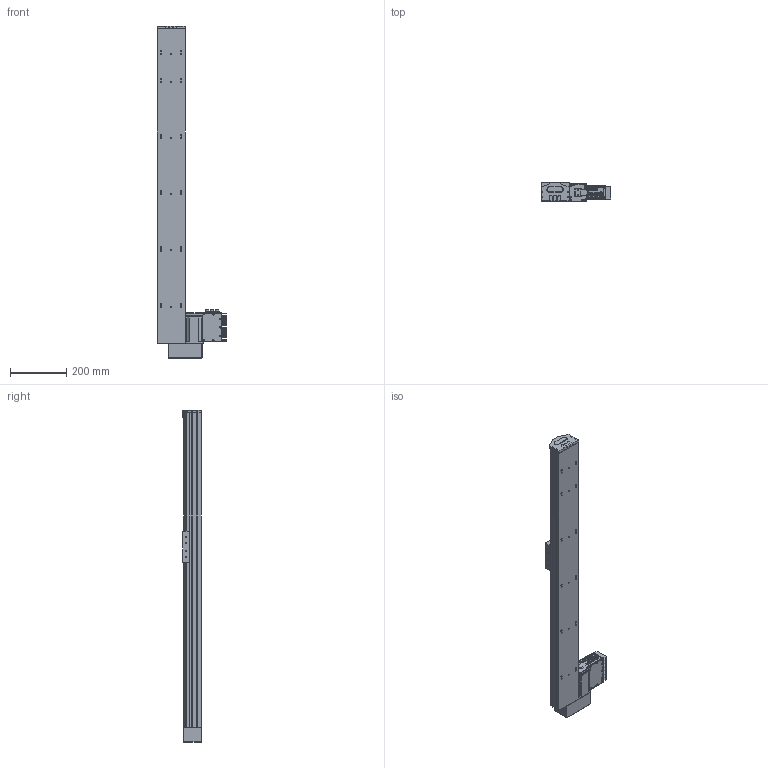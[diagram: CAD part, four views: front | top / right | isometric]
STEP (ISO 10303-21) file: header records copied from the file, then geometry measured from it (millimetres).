
FILE_DESCRIPTION (( 'STEP AP203' ), '1' );
FILE_NAME ('S 10 TSH BR S900.STEP', '2012-09-04T13:42:33', ( 'Conseil Régional Haute-Normandie' ), ( 'Conseil Régional Haute-Normandie' ), 'SwSTEP 2.0', 'SolidWorks 2010', '' );
FILE_SCHEMA (( 'CONFIG_CONTROL_DESIGN' ));
Length unit declared in the file: millimetre
Products named in the file (25): embout_modifié; remplir_Default; BU41 Carte Alimentation P05_3; Connecteur rond D10 3cts_5; Colonnette_3; Connecteur rond D12 4cts_5; Sub D 9cts 90_X2_00B_X0__3; Vis TF 3 torkx_1_1; renvoie LH2_Default; S 10 TSH BR S900; axe1120_Default; piece_plastique remplieTSH_Default; Pièce2_Default; palette tbn2; Assem1_7; T_X2_00F4_X0_le contre le moteur_5; BU45 Carte d''axe A11_5; Moteur 60BLDC90A_3; Couvercle_3; T_X2_00F4_X0_le fond_3; Radiateur profil_X2_00E9_X0_ 100x25_3; Colonnette ronde_3; T_X2_00F4_X0_le Arri_X2_00E8_X0_re_5; T_X2_00F4_X0_le lat_X2_00E9_X0_rale_5; Vis TF 3 torkx
Assembly tree (55 placements, depth 3):
  S 10 TSH BR S900
    renvoie LH2_Default
    Vis TF 3 torkx  x7
    palette tbn2
    piece_plastique remplieTSH_Default
      Pièce2_Default
      remplir_Default  x3
      embout_modifié
    axe1120_Default
    Assem1_7
      Connecteur rond D10 3cts_5  x2
      Sub D 9cts 90_X2_00B_X0__3
      Colonnette ronde_3
      Vis TF 3 torkx_1_1  x21
      T_X2_00F4_X0_le fond_3
      T_X2_00F4_X0_le lat_X2_00E9_X0_rale_5  x2
      BU41 Carte Alimentation P05_3
      Colonnette_3  x2
      Radiateur profil_X2_00E9_X0_ 100x25_3
      Moteur 60BLDC90A_3
      T_X2_00F4_X0_le Arri_X2_00E8_X0_re_5
      Connecteur rond D12 4cts_5
      T_X2_00F4_X0_le contre le moteur_5
      BU45 Carte d''axe A11_5
      Couvercle_3
Bounding box: 249.16 x 67.11 x 1182 mm (x, y, z)
Volume: 6512388.8 mm3; surface area: 838922.7 mm2
Topology: 53 solids, 53 shells, 2000 faces, 5086 edges, 3310 vertices
Faces by surface type: plane 930, cylinder 899, cone 164, sphere 4, torus 3
Entity records: 39593 total; most frequent: CARTESIAN_POINT 6628, DIRECTION 6485, ORIENTED_EDGE 5864, EDGE_CURVE 2932, AXIS2_PLACEMENT_3D 2392, VERTEX_POINT 1922, LINE 1701, VECTOR 1701
